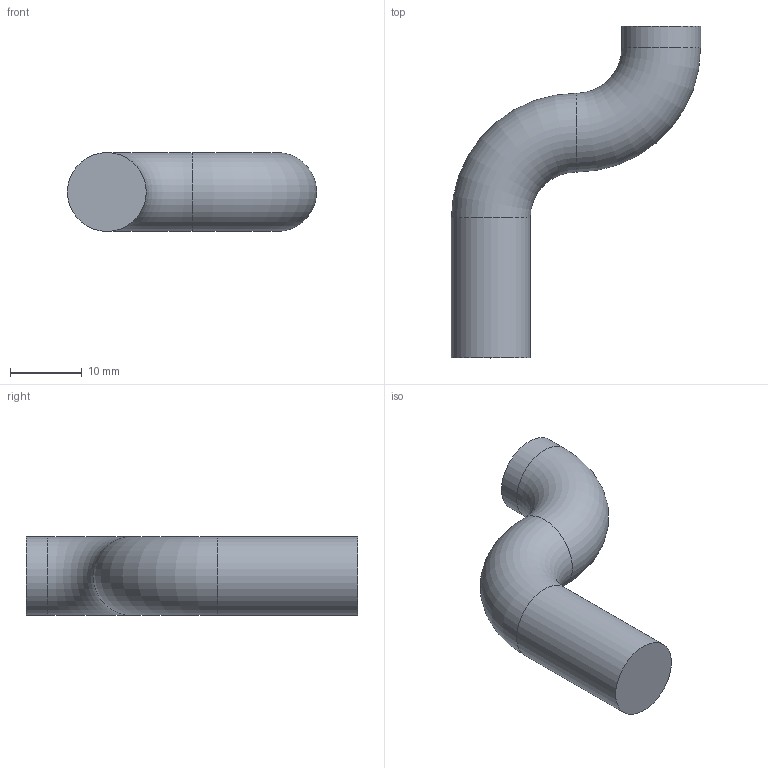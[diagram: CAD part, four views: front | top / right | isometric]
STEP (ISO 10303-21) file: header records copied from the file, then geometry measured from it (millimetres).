
FILE_DESCRIPTION(('Open CASCADE Model'),'2;1');
FILE_NAME('Open CASCADE Shape Model','2026-11-14T16:02:35',('Author'),( 'Open CASCADE'),'Open CASCADE STEP processor 7.9','Open CASCADE 7.9' ,'Unknown');
FILE_SCHEMA(('AUTOMOTIVE_DESIGN { 1 0 10303 214 1 1 1 1 }'));
Length unit declared in the file: millimetre
Products named in the file (1): Open CASCADE STEP translator 7.9 233
Bounding box: 34.76 x 46.3 x 11 mm (x, y, z)
Volume: 5688.9 mm3; surface area: 2258.8 mm2
Topology: 1 solids, 1 shells, 6 faces, 9 edges, 5 vertices
Faces by surface type: cylinder 2, torus 2, plane 2
Full cylindrical faces by diameter (mm): 11 x2
Entity records: 256 total; most frequent: CARTESIAN_POINT 46, DIRECTION 41, ORIENTED_EDGE 18, PCURVE 18, DEFINITIONAL_REPRESENTATION 18, AXIS2_PLACEMENT_3D 14, LINE 11, VECTOR 11
